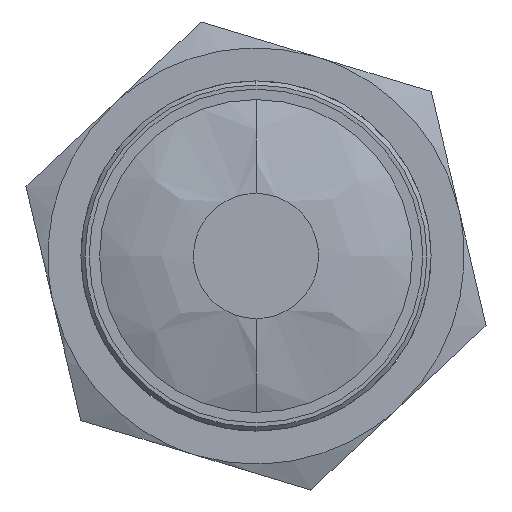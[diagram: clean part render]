
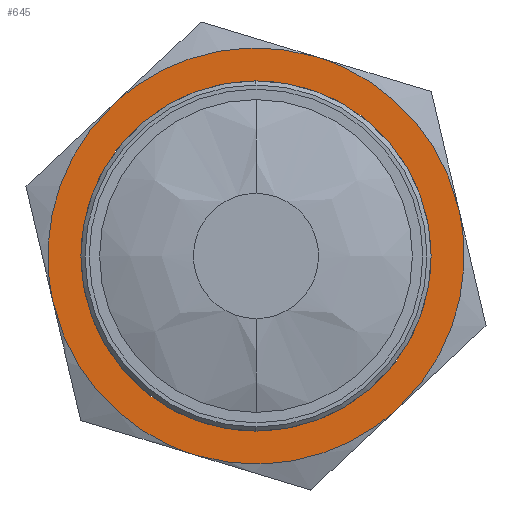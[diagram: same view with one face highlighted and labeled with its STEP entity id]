
A CAD part, left-side view. The second image highlights one B-rep face of the part: STEP entity #645.
In plain terms, the highlighted planar face has unit normal (-1, 0, 0) as drawn and (1, 0, 0) by its records, which use the part's own axes.
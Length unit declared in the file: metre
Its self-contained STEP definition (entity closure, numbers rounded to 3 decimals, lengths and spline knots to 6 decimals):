
#7 = CARTESIAN_POINT ( 'NONE',  ( 0.0075, 0., 0. ) ) ;
#86 = CARTESIAN_POINT ( 'NONE',  ( 0.0075, -0.025249, 0.025249 ) ) ;
#94 = CARTESIAN_POINT ( 'NONE',  ( 0.0075, -0.017041, 0.020384 ) ) ;
#99 = VERTEX_POINT ( 'NONE', #585 ) ;
#137 = EDGE_CURVE ( 'NONE', #263, #2172, #380, .T. ) ;
#142 = CARTESIAN_POINT ( 'NONE',  ( 0.0075, 0.00913, 0.02495 ) ) ;
#167 = EDGE_CURVE ( 'NONE', #1118, #99, #351, .T. ) ;
#183 = DIRECTION ( 'NONE',  ( 0., 1., 0. ) ) ;
#185 = EDGE_CURVE ( 'NONE', #2172, #263, #1654, .T. ) ;
#222 = CARTESIAN_POINT ( 'NONE',  ( 0.0075, -0.021607, 0.012475 ) ) ;
#226 = CARTESIAN_POINT ( 'NONE',  ( 0.0075, 0.009132, -0.02495 ) ) ;
#244 = CARTESIAN_POINT ( 'NONE',  ( 0.0075, 0.021, 0. ) ) ;
#263 = VERTEX_POINT ( 'NONE', #862 ) ;
#271 = DIRECTION ( 'NONE',  ( 1., 0., 0. ) ) ;
#300 = VERTEX_POINT ( 'NONE', #858 ) ;
#305 = ORIENTED_EDGE ( 'NONE', *, *, #185, .F. ) ;
#308 = AXIS2_PLACEMENT_3D ( 'NONE', #86, #271, #1439 ) ;
#339 = DIRECTION ( 'NONE',  ( 0., 1., 0. ) ) ;
#351 =( BOUNDED_CURVE ( )  B_SPLINE_CURVE ( 3, ( #533, #1524, #1870, #851 ),
 .UNSPECIFIED., .F., .F. ) 
 B_SPLINE_CURVE_WITH_KNOTS ( ( 4, 4 ),
 ( 0., 0.026023 ),
 .UNSPECIFIED. ) 
 CURVE ( )  GEOMETRIC_REPRESENTATION_ITEM ( )  RATIONAL_B_SPLINE_CURVE ( ( 0.998, 0.909, 0.909, 0.998 ) ) 
 REPRESENTATION_ITEM ( '' )  );
#380 = CIRCLE ( 'NONE', #987, 0.021 ) ;
#386 = FACE_BOUND ( 'NONE', #1742, .T. ) ;
#436 =( BOUNDED_CURVE ( )  B_SPLINE_CURVE ( 3, ( #1777, #441, #94, #1268 ),
 .UNSPECIFIED., .F., .T. ) 
 B_SPLINE_CURVE_WITH_KNOTS ( ( 4, 4 ),
 ( 0., 0.026023 ),
 .UNSPECIFIED. ) 
 CURVE ( )  GEOMETRIC_REPRESENTATION_ITEM ( )  RATIONAL_B_SPLINE_CURVE ( ( 0.998, 0.909, 0.909, 0.998 ) ) 
 REPRESENTATION_ITEM ( '' )  );
#441 = CARTESIAN_POINT ( 'NONE',  ( 0.0075, -0.009132, 0.02495 ) ) ;
#505 = VERTEX_POINT ( 'NONE', #1220 ) ;
#512 = CARTESIAN_POINT ( 'NONE',  ( 0.0075, 0.021607, 0.012475 ) ) ;
#531 = CARTESIAN_POINT ( 'NONE',  ( 0.0075, -0.017041, -0.020384 ) ) ;
#533 = CARTESIAN_POINT ( 'NONE',  ( 0.0075, -0.021607, 0.012475 ) ) ;
#563 = ORIENTED_EDGE ( 'NONE', *, *, #1637, .T. ) ;
#574 = CARTESIAN_POINT ( 'NONE',  ( 0.0075, 0.021607, -0.012475 ) ) ;
#585 = CARTESIAN_POINT ( 'NONE',  ( 0.0075, -0.021607, -0.012475 ) ) ;
#645 = ADVANCED_FACE ( 'NONE', ( #386, #2133 ), #1266, .T. ) ;
#733 = VERTEX_POINT ( 'NONE', #2137 ) ;
#747 = CARTESIAN_POINT ( 'NONE',  ( 0.0075, 0.021607, 0.012475 ) ) ;
#842 = EDGE_CURVE ( 'NONE', #1817, #1118, #436, .T. ) ;
#848 = CARTESIAN_POINT ( 'NONE',  ( 0.0075, 0., -0.02495 ) ) ;
#851 = CARTESIAN_POINT ( 'NONE',  ( 0.0075, -0.021607, -0.012475 ) ) ;
#858 = CARTESIAN_POINT ( 'NONE',  ( 0.0075, 0., -0.02495 ) ) ;
#862 = CARTESIAN_POINT ( 'NONE',  ( 0.0075, -0.021, 0. ) ) ;
#885 = CARTESIAN_POINT ( 'NONE',  ( 0.0075, 0., -0.02495 ) ) ;
#886 = ORIENTED_EDGE ( 'NONE', *, *, #1989, .T. ) ;
#919 =( BOUNDED_CURVE ( )  B_SPLINE_CURVE ( 3, ( #1338, #1157, #1502, #512 ),
 .UNSPECIFIED., .F., .F. ) 
 B_SPLINE_CURVE_WITH_KNOTS ( ( 4, 4 ),
 ( 0., 0.026023 ),
 .UNSPECIFIED. ) 
 CURVE ( )  GEOMETRIC_REPRESENTATION_ITEM ( )  RATIONAL_B_SPLINE_CURVE ( ( 0.998, 0.909, 0.909, 0.998 ) ) 
 REPRESENTATION_ITEM ( '' )  );
#987 = AXIS2_PLACEMENT_3D ( 'NONE', #7, #1183, #183 ) ;
#991 = ORIENTED_EDGE ( 'NONE', *, *, #1419, .T. ) ;
#1035 = DIRECTION ( 'NONE',  ( 1., 0., 0. ) ) ;
#1118 = VERTEX_POINT ( 'NONE', #222 ) ;
#1157 = CARTESIAN_POINT ( 'NONE',  ( 0.0075, 0.026174, -0.004566 ) ) ;
#1175 = EDGE_CURVE ( 'NONE', #733, #1817, #1923, .T. ) ;
#1181 = CARTESIAN_POINT ( 'NONE',  ( 0.0075, -0.021607, -0.012475 ) ) ;
#1183 = DIRECTION ( 'NONE',  ( 1., 0., 0. ) ) ;
#1220 = CARTESIAN_POINT ( 'NONE',  ( 0.0075, 0.021607, -0.012475 ) ) ;
#1266 = PLANE ( 'NONE',  #308 ) ;
#1268 = CARTESIAN_POINT ( 'NONE',  ( 0.0075, -0.021607, 0.012475 ) ) ;
#1311 = CARTESIAN_POINT ( 'NONE',  ( 0.0075, 0.01704, 0.020386 ) ) ;
#1318 = CARTESIAN_POINT ( 'NONE',  ( 0.0075, 0., 0.02495 ) ) ;
#1338 = CARTESIAN_POINT ( 'NONE',  ( 0.0075, 0.021607, -0.012475 ) ) ;
#1419 = EDGE_CURVE ( 'NONE', #505, #733, #919, .T. ) ;
#1439 = DIRECTION ( 'NONE',  ( 0., 0., -1. ) ) ;
#1497 =( BOUNDED_CURVE ( )  B_SPLINE_CURVE ( 3, ( #885, #226, #1564, #574 ),
 .UNSPECIFIED., .F., .F. ) 
 B_SPLINE_CURVE_WITH_KNOTS ( ( 4, 4 ),
 ( 0., 0.026023 ),
 .UNSPECIFIED. ) 
 CURVE ( )  GEOMETRIC_REPRESENTATION_ITEM ( )  RATIONAL_B_SPLINE_CURVE ( ( 0.998, 0.909, 0.909, 0.998 ) ) 
 REPRESENTATION_ITEM ( '' )  );
#1502 = CARTESIAN_POINT ( 'NONE',  ( 0.0075, 0.026174, 0.004566 ) ) ;
#1518 = EDGE_LOOP ( 'NONE', ( #1684, #1796, #886, #563, #991, #1605 ) ) ;
#1524 = CARTESIAN_POINT ( 'NONE',  ( 0.0075, -0.026174, 0.004566 ) ) ;
#1564 = CARTESIAN_POINT ( 'NONE',  ( 0.0075, 0.017041, -0.020384 ) ) ;
#1605 = ORIENTED_EDGE ( 'NONE', *, *, #1175, .T. ) ;
#1637 = EDGE_CURVE ( 'NONE', #300, #505, #1497, .T. ) ;
#1654 = CIRCLE ( 'NONE', #1663, 0.021 ) ;
#1663 = AXIS2_PLACEMENT_3D ( 'NONE', #2051, #1035, #339 ) ;
#1684 = ORIENTED_EDGE ( 'NONE', *, *, #842, .T. ) ;
#1742 = EDGE_LOOP ( 'NONE', ( #305, #1901 ) ) ;
#1777 = CARTESIAN_POINT ( 'NONE',  ( 0.0075, 0., 0.02495 ) ) ;
#1796 = ORIENTED_EDGE ( 'NONE', *, *, #167, .T. ) ;
#1817 = VERTEX_POINT ( 'NONE', #1942 ) ;
#1868 = CARTESIAN_POINT ( 'NONE',  ( 0.0075, -0.009132, -0.02495 ) ) ;
#1870 = CARTESIAN_POINT ( 'NONE',  ( 0.0075, -0.026174, -0.004566 ) ) ;
#1901 = ORIENTED_EDGE ( 'NONE', *, *, #137, .F. ) ;
#1923 =( BOUNDED_CURVE ( )  B_SPLINE_CURVE ( 3, ( #747, #1311, #142, #1318 ),
 .UNSPECIFIED., .F., .T. ) 
 B_SPLINE_CURVE_WITH_KNOTS ( ( 4, 4 ),
 ( 0., 0.026023 ),
 .UNSPECIFIED. ) 
 CURVE ( )  GEOMETRIC_REPRESENTATION_ITEM ( )  RATIONAL_B_SPLINE_CURVE ( ( 0.998, 0.91, 0.91, 1. ) ) 
 REPRESENTATION_ITEM ( '' )  );
#1942 = CARTESIAN_POINT ( 'NONE',  ( 0.0075, 0., 0.02495 ) ) ;
#1974 =( BOUNDED_CURVE ( )  B_SPLINE_CURVE ( 3, ( #1181, #531, #1868, #848 ),
 .UNSPECIFIED., .F., .F. ) 
 B_SPLINE_CURVE_WITH_KNOTS ( ( 4, 4 ),
 ( 0., 0.026023 ),
 .UNSPECIFIED. ) 
 CURVE ( )  GEOMETRIC_REPRESENTATION_ITEM ( )  RATIONAL_B_SPLINE_CURVE ( ( 0.998, 0.909, 0.909, 0.998 ) ) 
 REPRESENTATION_ITEM ( '' )  );
#1989 = EDGE_CURVE ( 'NONE', #99, #300, #1974, .T. ) ;
#2051 = CARTESIAN_POINT ( 'NONE',  ( 0.0075, 0., 0. ) ) ;
#2133 = FACE_OUTER_BOUND ( 'NONE', #1518, .T. ) ;
#2137 = CARTESIAN_POINT ( 'NONE',  ( 0.0075, 0.021607, 0.012475 ) ) ;
#2172 = VERTEX_POINT ( 'NONE', #244 ) ;
